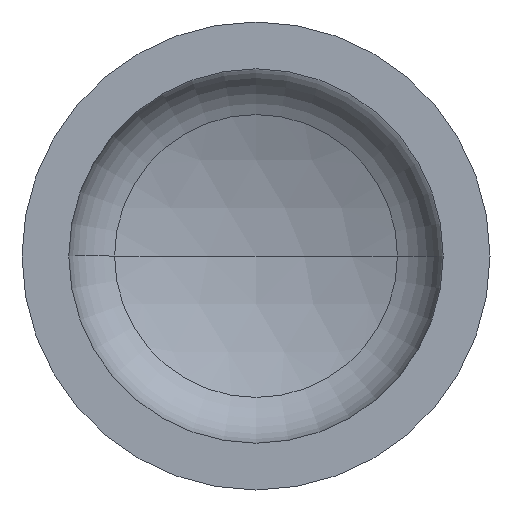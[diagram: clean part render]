
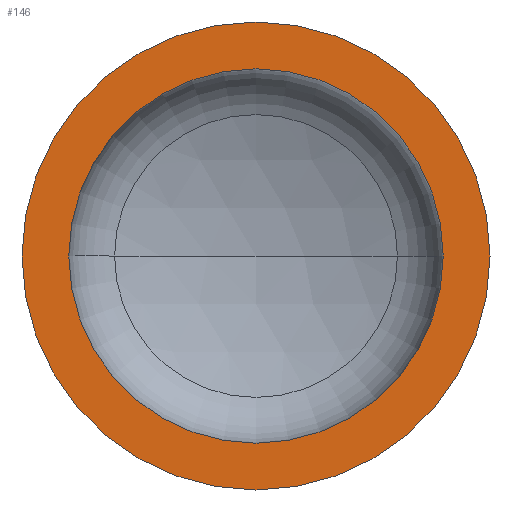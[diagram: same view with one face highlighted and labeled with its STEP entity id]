
A CAD part, front view. The second image highlights one B-rep face of the part: STEP entity #146.
In plain terms, the highlighted planar face has unit normal (0, -1, 0).
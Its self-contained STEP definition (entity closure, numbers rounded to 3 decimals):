
#21 = ORIENTED_EDGE ( 'NONE', *, *, #68, .F. ) ;
#31 = AXIS2_PLACEMENT_3D ( 'NONE', #367, #172, #177 ) ;
#38 = AXIS2_PLACEMENT_3D ( 'NONE', #361, #284, #273 ) ;
#39 = AXIS2_PLACEMENT_3D ( 'NONE', #343, #340, #336 ) ;
#50 = AXIS2_PLACEMENT_3D ( 'NONE', #186, #184, #401 ) ;
#58 = EDGE_CURVE ( 'NONE', #267, #295, #271, .T. ) ;
#67 = EDGE_CURVE ( 'NONE', #295, #267, #337, .T. ) ;
#68 = EDGE_CURVE ( 'NONE', #328, #232, #253, .T. ) ;
#81 = DIRECTION ( 'NONE',  ( 0., -1., 0. ) ) ;
#83 = FACE_OUTER_BOUND ( 'NONE', #212, .T. ) ;
#85 = DIRECTION ( 'NONE',  ( 1., 0., 0. ) ) ;
#90 = CARTESIAN_POINT ( 'NONE',  ( 280., 0., 0. ) ) ;
#95 = CARTESIAN_POINT ( 'NONE',  ( 0., 0., 0. ) ) ;
#113 = EDGE_LOOP ( 'NONE', ( #21, #392 ) ) ;
#123 = CARTESIAN_POINT ( 'NONE',  ( -280., 0., 0. ) ) ;
#146 = ADVANCED_FACE ( 'NONE', ( #387, #83 ), #268, .F. ) ;
#150 = CARTESIAN_POINT ( 'NONE',  ( 350., 0., 0. ) ) ;
#172 = DIRECTION ( 'NONE',  ( 0., 1., 0. ) ) ;
#177 = DIRECTION ( 'NONE',  ( -1., 0., 0. ) ) ;
#184 = DIRECTION ( 'NONE',  ( 0., -1., 0. ) ) ;
#186 = CARTESIAN_POINT ( 'NONE',  ( 0., 0., 0. ) ) ;
#199 = ORIENTED_EDGE ( 'NONE', *, *, #58, .T. ) ;
#200 = CARTESIAN_POINT ( 'NONE',  ( -350., 0., 0. ) ) ;
#212 = EDGE_LOOP ( 'NONE', ( #199, #236 ) ) ;
#232 = VERTEX_POINT ( 'NONE', #123 ) ;
#236 = ORIENTED_EDGE ( 'NONE', *, *, #67, .T. ) ;
#253 = CIRCLE ( 'NONE', #38, 280. ) ;
#267 = VERTEX_POINT ( 'NONE', #150 ) ;
#268 = PLANE ( 'NONE',  #31 ) ;
#271 = CIRCLE ( 'NONE', #50, 350. ) ;
#273 = DIRECTION ( 'NONE',  ( 1., 0., 0. ) ) ;
#284 = DIRECTION ( 'NONE',  ( 0., -1., 0. ) ) ;
#287 = AXIS2_PLACEMENT_3D ( 'NONE', #95, #81, #85 ) ;
#295 = VERTEX_POINT ( 'NONE', #200 ) ;
#327 = CIRCLE ( 'NONE', #287, 280. ) ;
#328 = VERTEX_POINT ( 'NONE', #90 ) ;
#336 = DIRECTION ( 'NONE',  ( 1., 0., 0. ) ) ;
#337 = CIRCLE ( 'NONE', #39, 350. ) ;
#340 = DIRECTION ( 'NONE',  ( 0., -1., 0. ) ) ;
#343 = CARTESIAN_POINT ( 'NONE',  ( 0., 0., 0. ) ) ;
#361 = CARTESIAN_POINT ( 'NONE',  ( 0., 0., 0. ) ) ;
#367 = CARTESIAN_POINT ( 'NONE',  ( -350., 0., 0. ) ) ;
#387 = FACE_BOUND ( 'NONE', #113, .T. ) ;
#392 = ORIENTED_EDGE ( 'NONE', *, *, #406, .F. ) ;
#401 = DIRECTION ( 'NONE',  ( 1., 0., 0. ) ) ;
#406 = EDGE_CURVE ( 'NONE', #232, #328, #327, .T. ) ;
